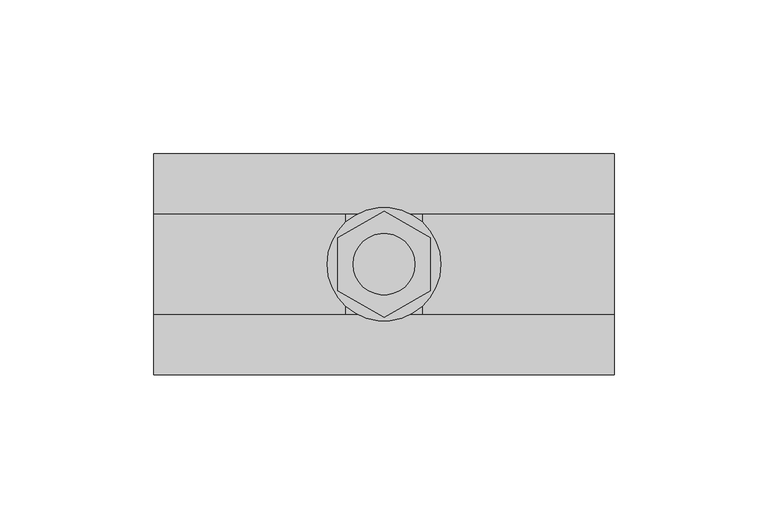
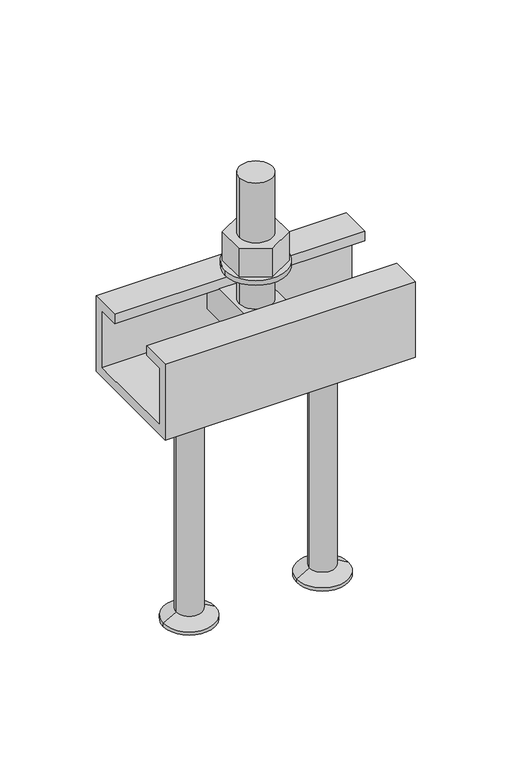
"""IFC4 building model written with IfcOpenShell, lengths in millimetres: fastener geometry, JTA-K JORDAHL® AnchorChannels : JTA-K L=150 mm."""

from ifc_helpers import new_model, si_unit, point, frame, frame_2d, origin, place, context, project, spatial, polyline, circle_curve, trimmed, segment, composite_curve, outline, extrude, source, transform, mapped, element, save
from ifc_brep_helpers import plane_surface, cylinder_surface, revolved_surface, advanced_brep


def fastener_2fbb87c7(model_context):
    return source(origin(), model_context, "Body", "SolidModel", [
        extrude(outline(polyline([(75.0, -17.3205081), (60.0, -8.660254), (60.0, 8.660254), (75.0, 17.3205081), (90.0, 8.660254), (90.0, -8.660254), (75.0, -17.3205081)]), holes=[composite_curve([segment(trimmed(circle_curve(frame_2d((75.0, 0.0)), 10.0), [point((65.0, 0.0))], [point((85.0, 0.0))], True, "CARTESIAN"), True, "CONTINUOUS"), segment(trimmed(circle_curve(frame_2d((75.0, 0.0)), 10.0), [point((85.0, 0.0))], [point((65.0, 0.0))], True, "CARTESIAN"), True, "CONTINUOUS")], self_intersect=False)]), frame((0.0, 0.0, 18.0), z_axis=(0.0, 0.0, 1.0), x_axis=(1.0, 0.0, 0.0)), (0.0, 0.0, 1.0), 18.0),
        extrude(outline(composite_curve([segment(trimmed(circle_curve(frame_2d((75.0, 0.0)), 18.5), [point((56.5, 0.0))], [point((93.5, 0.0))], False, "CARTESIAN"), True, "CONTINUOUS"), segment(trimmed(circle_curve(frame_2d((75.0, 0.0)), 18.5), [point((93.5, 0.0))], [point((56.5, 0.0))], False, "CARTESIAN"), True, "CONTINUOUS")], self_intersect=False), holes=[composite_curve([segment(trimmed(circle_curve(frame_2d((75.0, 0.0)), 10.5), [point((64.5, 0.0))], [point((85.5, 0.0))], True, "CARTESIAN"), True, "CONTINUOUS"), segment(trimmed(circle_curve(frame_2d((75.0, 0.0)), 10.5), [point((85.5, 0.0))], [point((64.5, 0.0))], True, "CARTESIAN"), True, "CONTINUOUS")], self_intersect=False)]), frame((0.0, 0.0, 15.0), z_axis=(0.0, 0.0, 1.0), x_axis=(1.0, 0.0, 0.0)), (0.0, 0.0, 1.0), 3.0),
        advanced_brep(
        [(87.5, -29.0, -6.0), (87.5, -29.0, -26.0), (87.5, 29.0, -26.0), (87.5, 29.0, -6.0), (62.5, -29.0, -6.0), (62.5, 29.0, -6.0), (62.5, 29.0, -26.0), (62.5, -29.0, -26.0), (85.0, 0.0, -6.0), (65.0, 0.0, -6.0), (65.0, 0.0, 74.0), (85.0, 0.0, 74.0)],
        [
            (0, 1),
            (1, 2),
            (2, 3),
            (3, 0),
            (4, 5),
            (5, 6),
            (6, 7),
            (7, 4),
            (3, 5),
            (4, 0),
            (8, 9, circle_curve(frame((75.0, 0.0, -6.0), z_axis=(0.0, 0.0, -1.0), x_axis=(1.0, 0.0, 0.0)), 10.0)),
            (9, 8, circle_curve(frame((75.0, 0.0, -6.0), z_axis=(0.0, 0.0, -1.0), x_axis=(1.0, 0.0, 0.0)), 10.0)),
            (2, 6),
            (1, 7),
            (10, 11, circle_curve(frame((75.0, 0.0, 74.0), z_axis=(0.0, 0.0, 1.0), x_axis=(1.0, 0.0, 0.0)), 10.0)),
            (11, 10, circle_curve(frame((75.0, 0.0, 74.0), z_axis=(0.0, 0.0, 1.0), x_axis=(1.0, 0.0, 0.0)), 10.0)),
            (11, 8),
            (9, 10),
        ],
        [
            plane_surface(frame((87.5, 29.0, -6.0), z_axis=(1.0, 0.0, 0.0), x_axis=(0.0, 1.0, 0.0))),
            plane_surface(frame((62.5, 29.0, -6.0), z_axis=(-1.0, 0.0, 0.0), x_axis=(0.0, -1.0, 0.0))),
            plane_surface(frame((87.5, -29.0, -6.0), z_axis=(0.0, 0.0, 1.0), x_axis=(-1.0, 0.0, 0.0))),
            plane_surface(frame((87.5, 29.0, -6.0), z_axis=(0.0, 1.0, 0.0), x_axis=(-1.0, 0.0, 0.0))),
            plane_surface(frame((87.5, 29.0, -26.0), z_axis=(0.0, 0.0, -1.0), x_axis=(-1.0, 0.0, 0.0))),
            plane_surface(frame((87.5, -29.0, -26.0), z_axis=(0.0, -1.0, 0.0), x_axis=(-1.0, 0.0, 0.0))),
            plane_surface(frame((85.0, 0.0, 74.0), z_axis=(0.0, 0.0, 1.0), x_axis=(0.0, -1.0, 0.0))),
            cylinder_surface(frame((75.0, 0.0, -6.0), z_axis=(0.0, 0.0, 1.0), x_axis=(1.0, 0.0, 0.0)), 10.0),
        ],
        [
            (0, [[1, 2, 3, 4]]),
            (1, [[5, 6, 7, 8]]),
            (2, [[9, -5, 10, -4], [11, 12]]),
            (3, [[13, -6, -9, -3]]),
            (4, [[14, -7, -13, -2]]),
            (5, [[-10, -8, -14, -1]]),
            (6, [[15, 16]]),
            (7, [[17, -12, 18, -16]]),
            (7, [[-18, -11, -17, -15]]),
        ],
    ),
        advanced_brep(
        [(115.0, 0.0, -48.0), (92.0, 0.0, -48.0), (138.0, 0.0, -48.0), (99.5, 0.0, -195.0), (115.0, 0.0, -195.0), (130.5, 0.0, -195.0), (99.5, 0.0, -193.0), (130.5, 0.0, -193.0), (107.2, 0.0, -188.5544029), (122.8, 0.0, -188.5544029), (107.2, 0.0, -52.0), (122.8, 0.0, -52.0)],
        [
            (0, 1),
            (1, 2, circle_curve(frame((115.0, 0.0, -48.0), z_axis=(0.0, 0.0, 1.0), x_axis=(1.0, 0.0, 0.0)), 23.0)),
            (2, 0),
            (2, 1, circle_curve(frame((115.0, 0.0, -48.0), z_axis=(0.0, 0.0, 1.0), x_axis=(1.0, 0.0, 0.0)), 23.0)),
            (3, 4),
            (4, 5),
            (5, 3, circle_curve(frame((115.0, 0.0, -195.0), z_axis=(0.0, 0.0, -1.0), x_axis=(1.0, 0.0, 0.0)), 15.5)),
            (3, 5, circle_curve(frame((115.0, 0.0, -195.0), z_axis=(0.0, 0.0, -1.0), x_axis=(1.0, 0.0, 0.0)), 15.5)),
            (6, 3),
            (5, 7),
            (7, 6, circle_curve(frame((115.0, 0.0, -193.0), z_axis=(0.0, 0.0, -1.0), x_axis=(1.0, 0.0, 0.0)), 15.5)),
            (6, 7, circle_curve(frame((115.0, 0.0, -193.0), z_axis=(0.0, 0.0, -1.0), x_axis=(1.0, 0.0, 0.0)), 15.5)),
            (8, 6),
            (7, 9),
            (9, 8, circle_curve(frame((115.0, 0.0, -188.5544029), z_axis=(0.0, 0.0, -1.0), x_axis=(1.0, 0.0, 0.0)), 7.8)),
            (8, 9, circle_curve(frame((115.0, 0.0, -188.5544029), z_axis=(0.0, 0.0, -1.0), x_axis=(1.0, 0.0, 0.0)), 7.8)),
            (10, 8),
            (9, 11),
            (11, 10, circle_curve(frame((115.0, 0.0, -52.0), z_axis=(0.0, 0.0, -1.0), x_axis=(1.0, 0.0, 0.0)), 7.8)),
            (10, 11, circle_curve(frame((115.0, 0.0, -52.0), z_axis=(0.0, 0.0, -1.0), x_axis=(1.0, 0.0, 0.0)), 7.8)),
            (1, 10),
            (11, 2),
        ],
        [
            plane_surface(frame((115.0, 0.0, -48.0), z_axis=(0.0, 0.0, 1.0), x_axis=(1.0, 0.0, 0.0))),
            plane_surface(frame((115.0, 0.0, -195.0), z_axis=(0.0, 0.0, -1.0), x_axis=(1.0, 0.0, 0.0))),
            cylinder_surface(frame((115.0, 0.0, 2361.3150031), z_axis=(0.0, 0.0, 1.0), x_axis=(1.0, 0.0, 0.0)), 15.5),
            revolved_surface(polyline([(130.5, 0.0, -193.0), (122.8, 0.0, -188.5544029)]), (115.0, 0.0, 2361.3150031), (0.0, 0.0, 1.0)),
            cylinder_surface(frame((115.0, 0.0, 2361.3150031), z_axis=(0.0, 0.0, 1.0), x_axis=(1.0, 0.0, 0.0)), 7.8),
            revolved_surface(polyline([(122.8, 0.0, -52.0), (138.0, 0.0, -48.0)]), (115.0, 0.0, 2361.3150031), (0.0, 0.0, 1.0)),
        ],
        [
            (0, [[1, 2, 3]]),
            (0, [[-3, 4, -1]]),
            (1, [[5, 6, 7]]),
            (1, [[-6, -5, 8]]),
            (2, [[9, -7, 10, 11]]),
            (2, [[-10, -8, -9, 12]]),
            (3, [[13, -11, 14, 15]]),
            (3, [[-14, -12, -13, 16]]),
            (4, [[17, -15, 18, 19]]),
            (4, [[-18, -16, -17, 20]]),
            (5, [[21, -19, 22, -2]]),
            (5, [[-22, -20, -21, -4]]),
        ],
    ),
        advanced_brep(
        [(35.0, 0.0, -48.0), (12.0, 0.0, -48.0), (58.0, 0.0, -48.0), (19.5, 0.0, -195.0), (35.0, 0.0, -195.0), (50.5, 0.0, -195.0), (19.5, 0.0, -193.0), (50.5, 0.0, -193.0), (27.2, 0.0, -188.5544029), (42.8, 0.0, -188.5544029), (27.2, 0.0, -52.0), (42.8, 0.0, -52.0)],
        [
            (0, 1),
            (1, 2, circle_curve(frame((35.0, 0.0, -48.0), z_axis=(0.0, 0.0, 1.0), x_axis=(1.0, 0.0, 0.0)), 23.0)),
            (2, 0),
            (2, 1, circle_curve(frame((35.0, 0.0, -48.0), z_axis=(0.0, 0.0, 1.0), x_axis=(1.0, 0.0, 0.0)), 23.0)),
            (3, 4),
            (4, 5),
            (5, 3, circle_curve(frame((35.0, 0.0, -195.0), z_axis=(0.0, 0.0, -1.0), x_axis=(1.0, 0.0, 0.0)), 15.5)),
            (3, 5, circle_curve(frame((35.0, 0.0, -195.0), z_axis=(0.0, 0.0, -1.0), x_axis=(1.0, 0.0, 0.0)), 15.5)),
            (6, 3),
            (5, 7),
            (7, 6, circle_curve(frame((35.0, 0.0, -193.0), z_axis=(0.0, 0.0, -1.0), x_axis=(1.0, 0.0, 0.0)), 15.5)),
            (6, 7, circle_curve(frame((35.0, 0.0, -193.0), z_axis=(0.0, 0.0, -1.0), x_axis=(1.0, 0.0, 0.0)), 15.5)),
            (8, 6),
            (7, 9),
            (9, 8, circle_curve(frame((35.0, 0.0, -188.5544029), z_axis=(0.0, 0.0, -1.0), x_axis=(1.0, 0.0, 0.0)), 7.8)),
            (8, 9, circle_curve(frame((35.0, 0.0, -188.5544029), z_axis=(0.0, 0.0, -1.0), x_axis=(1.0, 0.0, 0.0)), 7.8)),
            (10, 8),
            (9, 11),
            (11, 10, circle_curve(frame((35.0, 0.0, -52.0), z_axis=(0.0, 0.0, -1.0), x_axis=(1.0, 0.0, 0.0)), 7.8)),
            (10, 11, circle_curve(frame((35.0, 0.0, -52.0), z_axis=(0.0, 0.0, -1.0), x_axis=(1.0, 0.0, 0.0)), 7.8)),
            (1, 10),
            (11, 2),
        ],
        [
            plane_surface(frame((35.0, 0.0, -48.0), z_axis=(0.0, 0.0, 1.0), x_axis=(1.0, 0.0, 0.0))),
            plane_surface(frame((35.0, 0.0, -195.0), z_axis=(0.0, 0.0, -1.0), x_axis=(1.0, 0.0, 0.0))),
            cylinder_surface(frame((35.0, 0.0, 2361.3150031), z_axis=(0.0, 0.0, 1.0), x_axis=(1.0, 0.0, 0.0)), 15.5),
            revolved_surface(polyline([(50.5, 0.0, -193.0), (42.8, 0.0, -188.5544029)]), (35.0, 0.0, 2361.3150031), (0.0, 0.0, 1.0)),
            cylinder_surface(frame((35.0, 0.0, 2361.3150031), z_axis=(0.0, 0.0, 1.0), x_axis=(1.0, 0.0, 0.0)), 7.8),
            revolved_surface(polyline([(42.8, 0.0, -52.0), (58.0, 0.0, -48.0)]), (35.0, 0.0, 2361.3150031), (0.0, 0.0, 1.0)),
        ],
        [
            (0, [[1, 2, 3]]),
            (0, [[-3, 4, -1]]),
            (1, [[5, 6, 7]]),
            (1, [[-6, -5, 8]]),
            (2, [[9, -7, 10, 11]]),
            (2, [[-10, -8, -9, 12]]),
            (3, [[13, -11, 14, 15]]),
            (3, [[-14, -12, -13, 16]]),
            (4, [[17, -15, 18, 19]]),
            (4, [[-18, -16, -17, 20]]),
            (5, [[21, -19, 22, -2]]),
            (5, [[-22, -20, -21, -4]]),
        ],
    ),
        extrude(outline(polyline([(-36.0, 0.0), (-16.5, 0.0), (-16.5, -6.0), (-30.0, -6.0), (-30.0, -42.0), (30.0, -42.0), (30.0, -6.0), (16.5, -6.0), (16.5, 0.0), (36.0, 0.0), (36.0, -48.0), (-36.0, -48.0), (-36.0, 0.0)])), frame((0.0, 0.0, 0.0), z_axis=(1.0, 0.0, 0.0), x_axis=(0.0, 1.0, 0.0)), (0.0, 0.0, 1.0), 150.0),
    ])


if __name__ == "__main__":
    model = new_model("IFC4")
    model_context = context("Model", 3, world=origin())
    ifc_project = project(units=[si_unit("LENGTHUNIT", "METRE", prefix="MILLI")], contexts=[model_context])
    site = spatial("IfcSite", under=ifc_project)
    building = spatial("IfcBuilding", under=site)
    placement = place(None, origin())
    fastener_shape = fastener_2fbb87c7(model_context)
    element("IfcFastener", 1, ObjectType="JTA-K JORDAHL® AnchorChannels : JTA-K L=150 mm", at=placement, inside=building, context=model_context, shape_type="MappedRepresentation", body=[
        mapped(fastener_shape, transform((0.0, 0.0, 0.0), x_axis=(1.0, 0.0, 0.0), y_axis=(0.0, 1.0, 0.0), z_axis=(0.0, 0.0, 1.0))),
    ])
    save(model, "model.ifc")
